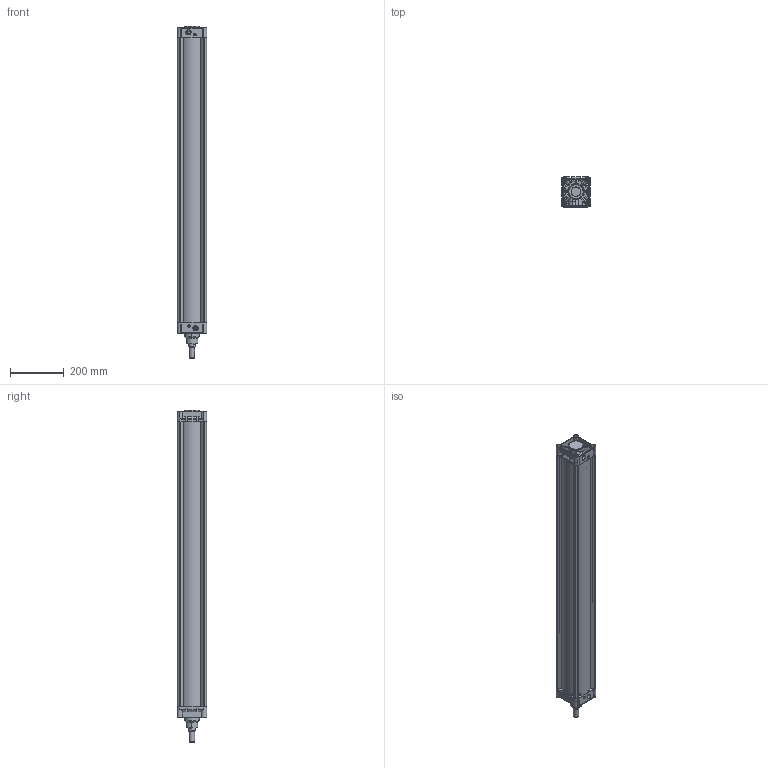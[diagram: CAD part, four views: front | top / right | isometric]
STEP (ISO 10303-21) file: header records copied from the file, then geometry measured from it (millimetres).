
FILE_DESCRIPTION (( 'STEP AP203' ), '1' );
FILE_NAME ('MDNC100X1000CYLINDER.STEP', '2015-03-11T07:42:17', ( 'user' ), ( '' ), 'SwSTEP 2.0', 'SolidWorks 2013', '' );
FILE_SCHEMA (( 'CONFIG_CONTROL_DESIGN' ));
Length unit declared in the file: millimetre
Products named in the file (6): ORTA PÝSTON 100; 烰 KAPAK  100; Piston Mili 100x1000; MDNC 100X1000 BORU; MDNC100X1000CYLINDER; ARKA KAPAK  100
Assembly tree (5 placements, depth 2):
  MDNC100X1000CYLINDER
    ARKA KAPAK  100
    ORTA PÝSTON 100
    烰 KAPAK  100
    Piston Mili 100x1000
    MDNC 100X1000 BORU
Bounding box: 110.06 x 110.35 x 1233 mm (x, y, z)
Volume: 3247553.5 mm3; surface area: 1284808.6 mm2
Topology: 5 solids, 5 shells, 1036 faces, 2683 edges, 1704 vertices
Faces by surface type: cylinder 422, plane 296, cone 168, bspline 150
Entity records: 46688 total; most frequent: CARTESIAN_POINT 22954, ORIENTED_EDGE 5342, DIRECTION 4076, EDGE_CURVE 2671, VERTEX_POINT 1704, AXIS2_PLACEMENT_3D 1557, EDGE_LOOP 1139, ADVANCED_FACE 1036
